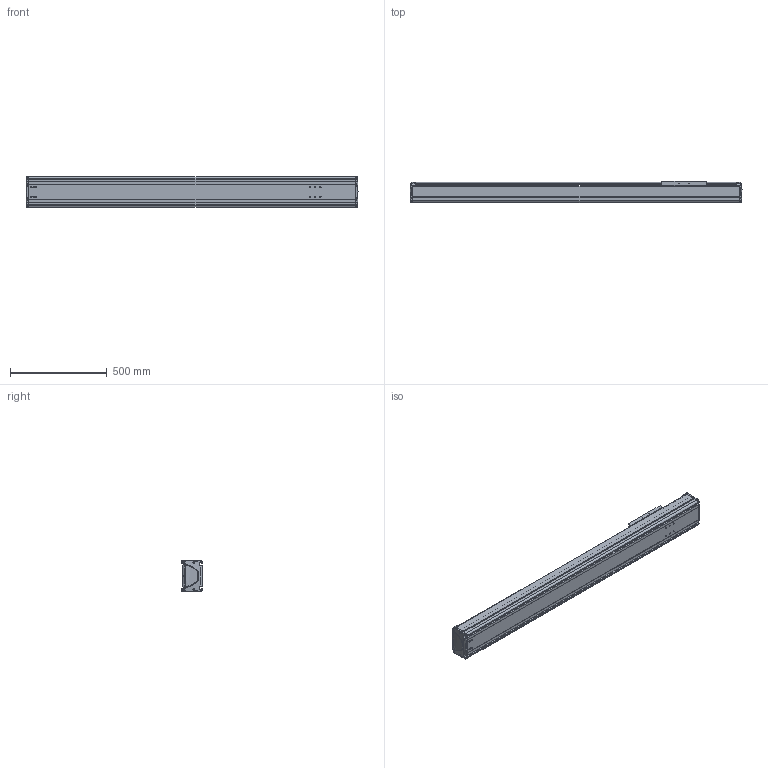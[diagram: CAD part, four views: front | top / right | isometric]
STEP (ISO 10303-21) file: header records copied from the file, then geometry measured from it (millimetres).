
FILE_DESCRIPTION((''),'2;1');
FILE_NAME('BE50G-ST-L_B-C5_IGS_PRT','2017-06-18T',(' '),(''),'PRO/ENGINEER BY PARAMETRIC TECHNOLOGY CORPORATION, 2015030','PRO/ENGINEER BY PARAMETRIC TECHNOLOGY CORPORATION, 2015030','');
FILE_SCHEMA(('CONFIG_CONTROL_DESIGN'));
Length unit declared in the file: millimetre
Products named in the file (1): BE50G-ST-L_B-C5_IGS_PRT
Bounding box: 1714.98 x 110 x 160 mm (x, y, z)
Volume: 7185224.3 mm3; surface area: 2603400 mm2
Topology: 3 solids, 108 shells, 1726 faces, 4638 edges, 2997 vertices
Faces by surface type: cylinder 800, plane 607, bspline 102, cone 90, torus 87, sphere 40
Entity records: 60021 total; most frequent: CARTESIAN_POINT 17350, ORIENTED_EDGE 8794, DIRECTION 8680, EDGE_CURVE 4604, AXIS2_PLACEMENT_3D 3268, VERTEX_POINT 2989, VECTOR 2144, LINE 2144
